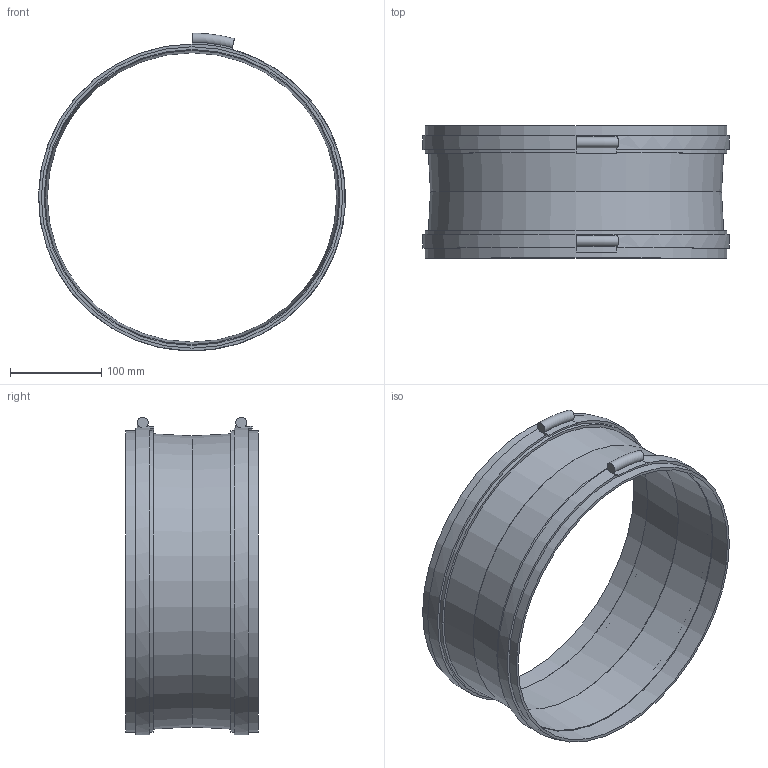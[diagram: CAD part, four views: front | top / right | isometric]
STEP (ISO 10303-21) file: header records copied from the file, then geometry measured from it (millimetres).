
FILE_DESCRIPTION(/* description */ (''),/* implementation_level */ '2;1');
FILE_NAME(/* name */ 'Z:\Output\FM_315-01674-001.stp',/* time_stamp */ '2017-07-11T10:21:17+02:00',/* author */ ('jayeshpanchal'),/* organization */ (''),/* preprocessor_version */ 'ST-DEVELOPER v16.5',/* originating_system */ 'Autodesk Inventor 2017',/* authorisation */ '');
FILE_SCHEMA (('AUTOMOTIVE_DESIGN { 1 0 10303 214 3 1 1 }'));
Length unit declared in the file: millimetre
Products named in the file (1): FM-1
Bounding box: 336 x 145 x 347.98 mm (x, y, z)
Volume: 391734.4 mm3; surface area: 356426.8 mm2
Topology: 3 solids, 3 shells, 36 faces, 66 edges, 40 vertices
Faces by surface type: plane 16, cylinder 14, cone 4, torus 2
Full cylindrical faces by diameter (mm): 324 x4, 330 x4, 336 x2
Entity records: 883 total; most frequent: DIRECTION 162, CARTESIAN_POINT 129, ORIENTED_EDGE 108, AXIS2_PLACEMENT_3D 73, EDGE_LOOP 60, EDGE_CURVE 52, VERTEX_POINT 40, FACE_OUTER_BOUND 36
